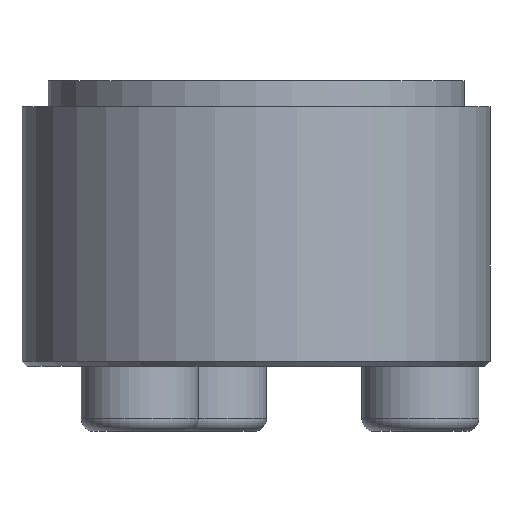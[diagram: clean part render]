
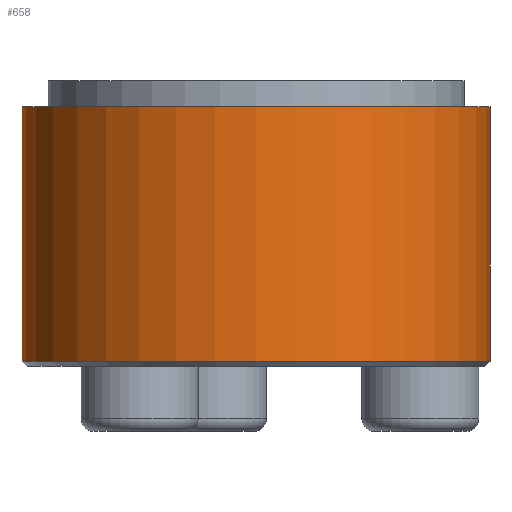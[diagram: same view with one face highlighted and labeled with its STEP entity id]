
A CAD part, front view. The second image highlights one B-rep face of the part: STEP entity #658.
In plain terms, the highlighted cylindrical face has radius 9 mm (diameter 18 mm), a partial arc.
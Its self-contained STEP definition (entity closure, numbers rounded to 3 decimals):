
#5 = AXIS2_PLACEMENT_3D ( 'NONE', #1301, #300, #1279 ) ;
#14 = DIRECTION ( 'NONE',  ( 1., 0., 0. ) ) ;
#16 = CARTESIAN_POINT ( 'NONE',  ( 9., 0., -5.3 ) ) ;
#78 = AXIS2_PLACEMENT_3D ( 'NONE', #356, #912, #14 ) ;
#101 = CYLINDRICAL_SURFACE ( 'NONE', #5, 9. ) ;
#162 = ORIENTED_EDGE ( 'NONE', *, *, #1292, .T. ) ;
#178 = EDGE_CURVE ( 'NONE', #805, #951, #500, .T. ) ;
#201 = ORIENTED_EDGE ( 'NONE', *, *, #1053, .T. ) ;
#233 = DIRECTION ( 'NONE',  ( 0., 0., -1. ) ) ;
#300 = DIRECTION ( 'NONE',  ( 0., 0., -1. ) ) ;
#321 = VECTOR ( 'NONE', #233, 1000. ) ;
#323 = ORIENTED_EDGE ( 'NONE', *, *, #765, .F. ) ;
#356 = CARTESIAN_POINT ( 'NONE',  ( 0., 0., 4.5 ) ) ;
#423 = CARTESIAN_POINT ( 'NONE',  ( 0., 0., -5.3 ) ) ;
#451 = CARTESIAN_POINT ( 'NONE',  ( 9., 0., 4.5 ) ) ;
#500 = CIRCLE ( 'NONE', #866, 9. ) ;
#501 = DIRECTION ( 'NONE',  ( 0., 0., -1. ) ) ;
#523 = CARTESIAN_POINT ( 'NONE',  ( -9., 0., 4.5 ) ) ;
#534 = DIRECTION ( 'NONE',  ( 0., 0., 1. ) ) ;
#545 = CARTESIAN_POINT ( 'NONE',  ( 9., 0., 0. ) ) ;
#658 = ADVANCED_FACE ( 'NONE', ( #1093 ), #101, .T. ) ;
#765 = EDGE_CURVE ( 'NONE', #847, #951, #1438, .T. ) ;
#775 = ORIENTED_EDGE ( 'NONE', *, *, #178, .T. ) ;
#805 = VERTEX_POINT ( 'NONE', #1231 ) ;
#847 = VERTEX_POINT ( 'NONE', #451 ) ;
#866 = AXIS2_PLACEMENT_3D ( 'NONE', #423, #534, #1314 ) ;
#885 = VECTOR ( 'NONE', #501, 1000. ) ;
#912 = DIRECTION ( 'NONE',  ( 0., 0., -1. ) ) ;
#951 = VERTEX_POINT ( 'NONE', #16 ) ;
#1051 = CARTESIAN_POINT ( 'NONE',  ( -9., 0., 0. ) ) ;
#1053 = EDGE_CURVE ( 'NONE', #1110, #805, #1195, .T. ) ;
#1093 = FACE_OUTER_BOUND ( 'NONE', #1096, .T. ) ;
#1096 = EDGE_LOOP ( 'NONE', ( #323, #162, #201, #775 ) ) ;
#1104 = CIRCLE ( 'NONE', #78, 9. ) ;
#1110 = VERTEX_POINT ( 'NONE', #523 ) ;
#1195 = LINE ( 'NONE', #1051, #885 ) ;
#1231 = CARTESIAN_POINT ( 'NONE',  ( -9., 0., -5.3 ) ) ;
#1279 = DIRECTION ( 'NONE',  ( -1., 0., 0. ) ) ;
#1292 = EDGE_CURVE ( 'NONE', #847, #1110, #1104, .T. ) ;
#1301 = CARTESIAN_POINT ( 'NONE',  ( 0., 0., 0. ) ) ;
#1314 = DIRECTION ( 'NONE',  ( -1., 0., 0. ) ) ;
#1438 = LINE ( 'NONE', #545, #321 ) ;
